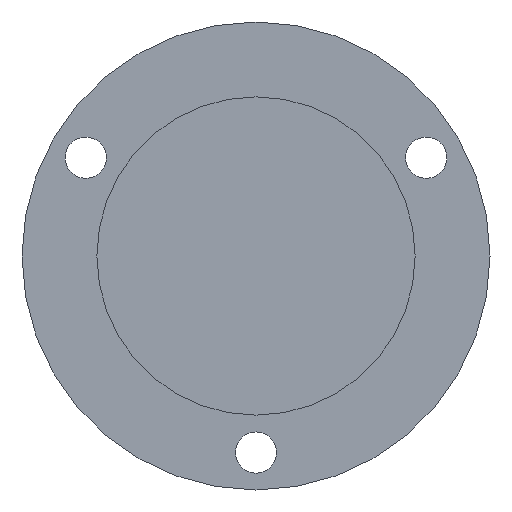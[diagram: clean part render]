
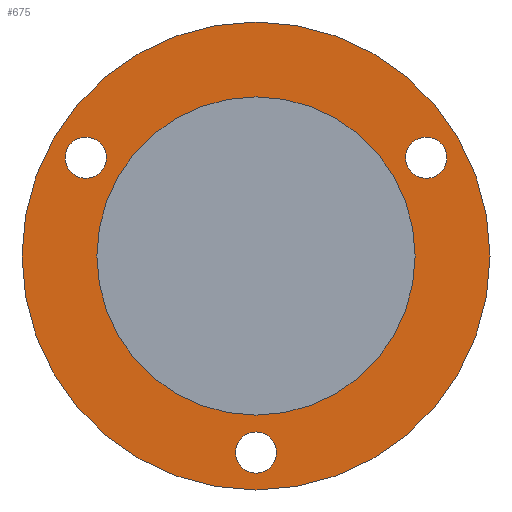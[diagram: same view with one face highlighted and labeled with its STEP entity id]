
A CAD part, front view. The second image highlights one B-rep face of the part: STEP entity #675.
In plain terms, the highlighted planar face has unit normal (0, -1, 0).
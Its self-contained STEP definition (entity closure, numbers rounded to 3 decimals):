
#22 = FACE_BOUND ( 'NONE', #428, .T. ) ;
#30 = PLANE ( 'NONE',  #127 ) ;
#32 = EDGE_CURVE ( 'NONE', #400, #575, #307, .T. ) ;
#35 = CARTESIAN_POINT ( 'NONE',  ( 12.5, 8., 0. ) ) ;
#44 = CARTESIAN_POINT ( 'NONE',  ( 0., 8., -9.4 ) ) ;
#53 = DIRECTION ( 'NONE',  ( -1., 0., 0. ) ) ;
#58 = EDGE_LOOP ( 'NONE', ( #69, #535 ) ) ;
#60 = CARTESIAN_POINT ( 'NONE',  ( 0., 8., -11.6 ) ) ;
#65 = DIRECTION ( 'NONE',  ( 0., -1., 0. ) ) ;
#69 = ORIENTED_EDGE ( 'NONE', *, *, #567, .F. ) ;
#76 = CIRCLE ( 'NONE', #578, 1.1 ) ;
#80 = DIRECTION ( 'NONE',  ( -1., 0., 0. ) ) ;
#84 = VERTEX_POINT ( 'NONE', #60 ) ;
#85 = CARTESIAN_POINT ( 'NONE',  ( -8.5, 8., 0. ) ) ;
#89 = ORIENTED_EDGE ( 'NONE', *, *, #656, .T. ) ;
#93 = CIRCLE ( 'NONE', #719, 12.5 ) ;
#106 = CARTESIAN_POINT ( 'NONE',  ( 0., 8., -10.5 ) ) ;
#120 = EDGE_LOOP ( 'NONE', ( #260, #89 ) ) ;
#126 = EDGE_CURVE ( 'NONE', #726, #645, #613, .T. ) ;
#127 = AXIS2_PLACEMENT_3D ( 'NONE', #216, #633, #342 ) ;
#131 = AXIS2_PLACEMENT_3D ( 'NONE', #106, #715, #516 ) ;
#134 = DIRECTION ( 'NONE',  ( 0., -1., 0. ) ) ;
#139 = CARTESIAN_POINT ( 'NONE',  ( -9.093, 8., 5.25 ) ) ;
#154 = ORIENTED_EDGE ( 'NONE', *, *, #161, .T. ) ;
#161 = EDGE_CURVE ( 'NONE', #265, #772, #93, .T. ) ;
#180 = EDGE_LOOP ( 'NONE', ( #387, #154 ) ) ;
#187 = CIRCLE ( 'NONE', #323, 1.1 ) ;
#198 = ORIENTED_EDGE ( 'NONE', *, *, #372, .T. ) ;
#216 = CARTESIAN_POINT ( 'NONE',  ( -8.5, 8., 0. ) ) ;
#223 = CARTESIAN_POINT ( 'NONE',  ( -10.193, 8., 5.25 ) ) ;
#229 = DIRECTION ( 'NONE',  ( -1., 0., 0. ) ) ;
#241 = DIRECTION ( 'NONE',  ( 0., 1., 0. ) ) ;
#251 = CARTESIAN_POINT ( 'NONE',  ( 0., 8., 0. ) ) ;
#252 = ORIENTED_EDGE ( 'NONE', *, *, #475, .T. ) ;
#260 = ORIENTED_EDGE ( 'NONE', *, *, #790, .T. ) ;
#265 = VERTEX_POINT ( 'NONE', #552 ) ;
#270 = CIRCLE ( 'NONE', #314, 1.1 ) ;
#291 = FACE_BOUND ( 'NONE', #58, .T. ) ;
#296 = FACE_BOUND ( 'NONE', #343, .T. ) ;
#305 = DIRECTION ( 'NONE',  ( -1., 0., 0. ) ) ;
#307 = CIRCLE ( 'NONE', #813, 8.5 ) ;
#312 = DIRECTION ( 'NONE',  ( 0., 1., 0. ) ) ;
#314 = AXIS2_PLACEMENT_3D ( 'NONE', #559, #685, #80 ) ;
#323 = AXIS2_PLACEMENT_3D ( 'NONE', #844, #241, #305 ) ;
#342 = DIRECTION ( 'NONE',  ( -1., 0., 0. ) ) ;
#343 = EDGE_LOOP ( 'NONE', ( #654, #198 ) ) ;
#368 = DIRECTION ( 'NONE',  ( 1., 0., 0. ) ) ;
#372 = EDGE_CURVE ( 'NONE', #645, #726, #830, .T. ) ;
#387 = ORIENTED_EDGE ( 'NONE', *, *, #815, .T. ) ;
#400 = VERTEX_POINT ( 'NONE', #85 ) ;
#402 = CARTESIAN_POINT ( 'NONE',  ( 0., 8., 0. ) ) ;
#428 = EDGE_LOOP ( 'NONE', ( #252, #511 ) ) ;
#432 = FACE_OUTER_BOUND ( 'NONE', #180, .T. ) ;
#469 = AXIS2_PLACEMENT_3D ( 'NONE', #792, #65, #810 ) ;
#475 = EDGE_CURVE ( 'NONE', #480, #757, #187, .T. ) ;
#478 = CARTESIAN_POINT ( 'NONE',  ( 7.993, 8., 5.25 ) ) ;
#480 = VERTEX_POINT ( 'NONE', #478 ) ;
#511 = ORIENTED_EDGE ( 'NONE', *, *, #727, .T. ) ;
#516 = DIRECTION ( 'NONE',  ( -1., 0., 0. ) ) ;
#520 = DIRECTION ( 'NONE',  ( 0., -1., 0. ) ) ;
#521 = DIRECTION ( 'NONE',  ( 0., -1., 0. ) ) ;
#530 = AXIS2_PLACEMENT_3D ( 'NONE', #561, #312, #229 ) ;
#535 = ORIENTED_EDGE ( 'NONE', *, *, #32, .F. ) ;
#552 = CARTESIAN_POINT ( 'NONE',  ( -12.5, 8., 0. ) ) ;
#559 = CARTESIAN_POINT ( 'NONE',  ( 9.093, 8., 5.25 ) ) ;
#561 = CARTESIAN_POINT ( 'NONE',  ( -9.093, 8., 5.25 ) ) ;
#567 = EDGE_CURVE ( 'NONE', #575, #400, #852, .T. ) ;
#575 = VERTEX_POINT ( 'NONE', #587 ) ;
#578 = AXIS2_PLACEMENT_3D ( 'NONE', #808, #657, #53 ) ;
#587 = CARTESIAN_POINT ( 'NONE',  ( 8.5, 8., 0. ) ) ;
#593 = DIRECTION ( 'NONE',  ( 1., 0., 0. ) ) ;
#599 = CIRCLE ( 'NONE', #131, 1.1 ) ;
#613 = CIRCLE ( 'NONE', #791, 1.1 ) ;
#626 = FACE_BOUND ( 'NONE', #120, .T. ) ;
#633 = DIRECTION ( 'NONE',  ( 0., 1., 0. ) ) ;
#645 = VERTEX_POINT ( 'NONE', #652 ) ;
#652 = CARTESIAN_POINT ( 'NONE',  ( -7.993, 8., 5.25 ) ) ;
#654 = ORIENTED_EDGE ( 'NONE', *, *, #126, .T. ) ;
#656 = EDGE_CURVE ( 'NONE', #84, #848, #76, .T. ) ;
#657 = DIRECTION ( 'NONE',  ( 0., 1., 0. ) ) ;
#673 = DIRECTION ( 'NONE',  ( -1., 0., 0. ) ) ;
#674 = CIRCLE ( 'NONE', #779, 12.5 ) ;
#675 = ADVANCED_FACE ( 'NONE', ( #296, #22, #626, #291, #432 ), #30, .F. ) ;
#685 = DIRECTION ( 'NONE',  ( 0., 1., 0. ) ) ;
#705 = CARTESIAN_POINT ( 'NONE',  ( 0., 8., 0. ) ) ;
#715 = DIRECTION ( 'NONE',  ( 0., 1., 0. ) ) ;
#719 = AXIS2_PLACEMENT_3D ( 'NONE', #402, #134, #593 ) ;
#726 = VERTEX_POINT ( 'NONE', #223 ) ;
#727 = EDGE_CURVE ( 'NONE', #757, #480, #270, .T. ) ;
#732 = DIRECTION ( 'NONE',  ( 0., 1., 0. ) ) ;
#757 = VERTEX_POINT ( 'NONE', #771 ) ;
#771 = CARTESIAN_POINT ( 'NONE',  ( 10.193, 8., 5.25 ) ) ;
#772 = VERTEX_POINT ( 'NONE', #35 ) ;
#779 = AXIS2_PLACEMENT_3D ( 'NONE', #251, #521, #783 ) ;
#783 = DIRECTION ( 'NONE',  ( 1., 0., 0. ) ) ;
#790 = EDGE_CURVE ( 'NONE', #848, #84, #599, .T. ) ;
#791 = AXIS2_PLACEMENT_3D ( 'NONE', #139, #732, #673 ) ;
#792 = CARTESIAN_POINT ( 'NONE',  ( 0., 8., 0. ) ) ;
#808 = CARTESIAN_POINT ( 'NONE',  ( 0., 8., -10.5 ) ) ;
#810 = DIRECTION ( 'NONE',  ( 1., 0., 0. ) ) ;
#813 = AXIS2_PLACEMENT_3D ( 'NONE', #705, #520, #368 ) ;
#815 = EDGE_CURVE ( 'NONE', #772, #265, #674, .T. ) ;
#830 = CIRCLE ( 'NONE', #530, 1.1 ) ;
#844 = CARTESIAN_POINT ( 'NONE',  ( 9.093, 8., 5.25 ) ) ;
#848 = VERTEX_POINT ( 'NONE', #44 ) ;
#852 = CIRCLE ( 'NONE', #469, 8.5 ) ;
